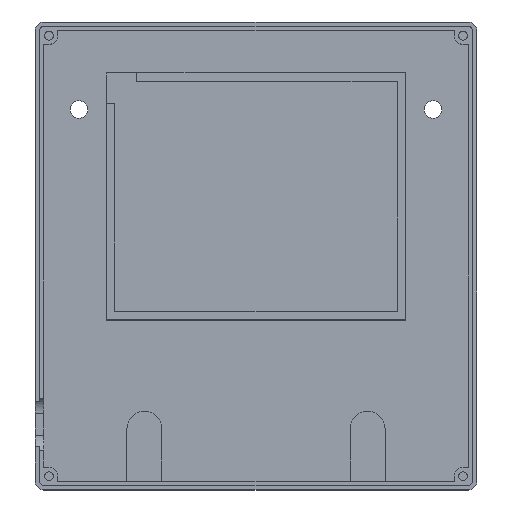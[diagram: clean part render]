
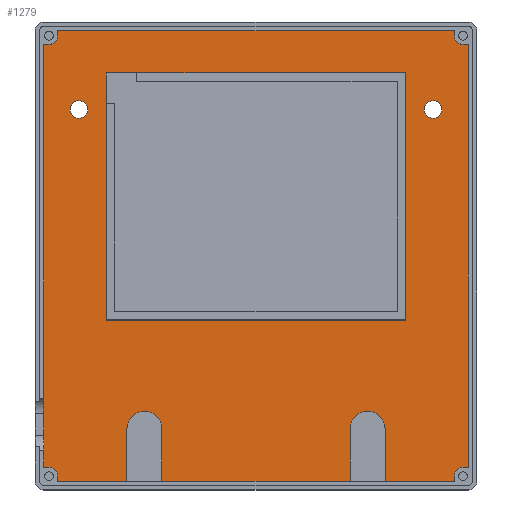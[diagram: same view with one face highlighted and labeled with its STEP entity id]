
A CAD part, top view. The second image highlights one B-rep face of the part: STEP entity #1279.
In plain terms, the highlighted planar face has unit normal (0, 0, 1).
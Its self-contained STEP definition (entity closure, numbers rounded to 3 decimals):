
#15=FACE_BOUND('',#154,.T.);
#16=FACE_BOUND('',#155,.T.);
#17=FACE_BOUND('',#156,.T.);
#32=PLANE('',#1379);
#83=FACE_OUTER_BOUND('',#153,.T.);
#153=EDGE_LOOP('',(#936,#937,#938,#939,#940,#941,#942,#943,#944,#945,#946,
#947,#948,#949,#950,#951,#952,#953,#954,#955,#956,#957,#958,#959));
#154=EDGE_LOOP('',(#960,#961,#962,#963));
#155=EDGE_LOOP('',(#964));
#156=EDGE_LOOP('',(#965));
#246=LINE('',#1927,#389);
#251=LINE('',#1941,#394);
#255=LINE('',#1949,#398);
#256=LINE('',#1951,#399);
#257=LINE('',#1955,#400);
#258=LINE('',#1957,#401);
#259=LINE('',#1959,#402);
#260=LINE('',#1963,#403);
#261=LINE('',#1965,#404);
#262=LINE('',#1967,#405);
#263=LINE('',#1971,#406);
#264=LINE('',#1973,#407);
#265=LINE('',#1975,#408);
#266=LINE('',#1979,#409);
#267=LINE('',#1981,#410);
#268=LINE('',#1983,#411);
#269=LINE('',#1987,#412);
#270=LINE('',#1988,#413);
#271=LINE('',#1991,#414);
#272=LINE('',#1993,#415);
#273=LINE('',#1995,#416);
#274=LINE('',#1996,#417);
#389=VECTOR('',#1539,10.);
#394=VECTOR('',#1552,10.);
#398=VECTOR('',#1560,10.);
#399=VECTOR('',#1561,10.);
#400=VECTOR('',#1564,10.);
#401=VECTOR('',#1565,10.);
#402=VECTOR('',#1566,10.);
#403=VECTOR('',#1569,10.);
#404=VECTOR('',#1570,10.);
#405=VECTOR('',#1571,10.);
#406=VECTOR('',#1574,10.);
#407=VECTOR('',#1575,10.);
#408=VECTOR('',#1576,10.);
#409=VECTOR('',#1579,10.);
#410=VECTOR('',#1580,10.);
#411=VECTOR('',#1581,10.);
#412=VECTOR('',#1584,10.);
#413=VECTOR('',#1585,10.);
#414=VECTOR('',#1586,10.);
#415=VECTOR('',#1587,10.);
#416=VECTOR('',#1588,10.);
#417=VECTOR('',#1589,10.);
#521=CIRCLE('',#1375,4.);
#523=CIRCLE('',#1380,2.);
#524=CIRCLE('',#1381,2.);
#525=CIRCLE('',#1382,2.);
#526=CIRCLE('',#1383,2.);
#527=CIRCLE('',#1384,4.);
#528=CIRCLE('',#1385,2.);
#529=CIRCLE('',#1386,2.);
#585=VERTEX_POINT('',#1925);
#586=VERTEX_POINT('',#1926);
#589=VERTEX_POINT('',#1934);
#591=VERTEX_POINT('',#1940);
#593=VERTEX_POINT('',#1948);
#594=VERTEX_POINT('',#1950);
#595=VERTEX_POINT('',#1952);
#596=VERTEX_POINT('',#1954);
#597=VERTEX_POINT('',#1956);
#598=VERTEX_POINT('',#1958);
#599=VERTEX_POINT('',#1960);
#600=VERTEX_POINT('',#1962);
#601=VERTEX_POINT('',#1964);
#602=VERTEX_POINT('',#1966);
#603=VERTEX_POINT('',#1968);
#604=VERTEX_POINT('',#1970);
#605=VERTEX_POINT('',#1972);
#606=VERTEX_POINT('',#1974);
#607=VERTEX_POINT('',#1976);
#608=VERTEX_POINT('',#1978);
#609=VERTEX_POINT('',#1980);
#610=VERTEX_POINT('',#1982);
#611=VERTEX_POINT('',#1984);
#612=VERTEX_POINT('',#1986);
#613=VERTEX_POINT('',#1989);
#614=VERTEX_POINT('',#1990);
#615=VERTEX_POINT('',#1992);
#616=VERTEX_POINT('',#1994);
#617=VERTEX_POINT('',#1997);
#618=VERTEX_POINT('',#1999);
#718=EDGE_CURVE('',#585,#586,#246,.T.);
#722=EDGE_CURVE('',#586,#589,#521,.T.);
#725=EDGE_CURVE('',#589,#591,#251,.T.);
#729=EDGE_CURVE('',#593,#591,#255,.T.);
#730=EDGE_CURVE('',#594,#593,#256,.T.);
#731=EDGE_CURVE('',#595,#594,#523,.T.);
#732=EDGE_CURVE('',#596,#595,#257,.T.);
#733=EDGE_CURVE('',#597,#596,#258,.T.);
#734=EDGE_CURVE('',#598,#597,#259,.T.);
#735=EDGE_CURVE('',#599,#598,#524,.T.);
#736=EDGE_CURVE('',#600,#599,#260,.T.);
#737=EDGE_CURVE('',#601,#600,#261,.T.);
#738=EDGE_CURVE('',#602,#601,#262,.T.);
#739=EDGE_CURVE('',#603,#602,#525,.T.);
#740=EDGE_CURVE('',#604,#603,#263,.T.);
#741=EDGE_CURVE('',#605,#604,#264,.T.);
#742=EDGE_CURVE('',#606,#605,#265,.T.);
#743=EDGE_CURVE('',#607,#606,#526,.T.);
#744=EDGE_CURVE('',#608,#607,#266,.T.);
#745=EDGE_CURVE('',#609,#608,#267,.T.);
#746=EDGE_CURVE('',#609,#610,#268,.T.);
#747=EDGE_CURVE('',#610,#611,#527,.T.);
#748=EDGE_CURVE('',#611,#612,#269,.T.);
#749=EDGE_CURVE('',#585,#612,#270,.T.);
#750=EDGE_CURVE('',#613,#614,#271,.T.);
#751=EDGE_CURVE('',#614,#615,#272,.T.);
#752=EDGE_CURVE('',#615,#616,#273,.T.);
#753=EDGE_CURVE('',#616,#613,#274,.T.);
#754=EDGE_CURVE('',#617,#617,#528,.T.);
#755=EDGE_CURVE('',#618,#618,#529,.T.);
#936=ORIENTED_EDGE('',*,*,#718,.T.);
#937=ORIENTED_EDGE('',*,*,#722,.T.);
#938=ORIENTED_EDGE('',*,*,#725,.T.);
#939=ORIENTED_EDGE('',*,*,#729,.F.);
#940=ORIENTED_EDGE('',*,*,#730,.F.);
#941=ORIENTED_EDGE('',*,*,#731,.F.);
#942=ORIENTED_EDGE('',*,*,#732,.F.);
#943=ORIENTED_EDGE('',*,*,#733,.F.);
#944=ORIENTED_EDGE('',*,*,#734,.F.);
#945=ORIENTED_EDGE('',*,*,#735,.F.);
#946=ORIENTED_EDGE('',*,*,#736,.F.);
#947=ORIENTED_EDGE('',*,*,#737,.F.);
#948=ORIENTED_EDGE('',*,*,#738,.F.);
#949=ORIENTED_EDGE('',*,*,#739,.F.);
#950=ORIENTED_EDGE('',*,*,#740,.F.);
#951=ORIENTED_EDGE('',*,*,#741,.F.);
#952=ORIENTED_EDGE('',*,*,#742,.F.);
#953=ORIENTED_EDGE('',*,*,#743,.F.);
#954=ORIENTED_EDGE('',*,*,#744,.F.);
#955=ORIENTED_EDGE('',*,*,#745,.F.);
#956=ORIENTED_EDGE('',*,*,#746,.T.);
#957=ORIENTED_EDGE('',*,*,#747,.T.);
#958=ORIENTED_EDGE('',*,*,#748,.T.);
#959=ORIENTED_EDGE('',*,*,#749,.F.);
#960=ORIENTED_EDGE('',*,*,#750,.T.);
#961=ORIENTED_EDGE('',*,*,#751,.T.);
#962=ORIENTED_EDGE('',*,*,#752,.T.);
#963=ORIENTED_EDGE('',*,*,#753,.T.);
#964=ORIENTED_EDGE('',*,*,#754,.T.);
#965=ORIENTED_EDGE('',*,*,#755,.T.);
#1279=ADVANCED_FACE('',(#83,#15,#16,#17),#32,.T.);
#1375=AXIS2_PLACEMENT_3D('',#1935,#1545,#1546);
#1379=AXIS2_PLACEMENT_3D('',#1947,#1558,#1559);
#1380=AXIS2_PLACEMENT_3D('',#1953,#1562,#1563);
#1381=AXIS2_PLACEMENT_3D('',#1961,#1567,#1568);
#1382=AXIS2_PLACEMENT_3D('',#1969,#1572,#1573);
#1383=AXIS2_PLACEMENT_3D('',#1977,#1577,#1578);
#1384=AXIS2_PLACEMENT_3D('',#1985,#1582,#1583);
#1385=AXIS2_PLACEMENT_3D('',#1998,#1590,#1591);
#1386=AXIS2_PLACEMENT_3D('',#2000,#1592,#1593);
#1539=DIRECTION('',(0.,1.,0.));
#1545=DIRECTION('center_axis',(0.,0.,-1.));
#1546=DIRECTION('ref_axis',(1.,0.,0.));
#1552=DIRECTION('',(0.,-1.,0.));
#1558=DIRECTION('center_axis',(0.,0.,1.));
#1559=DIRECTION('ref_axis',(1.,0.,0.));
#1560=DIRECTION('',(-1.,0.,0.));
#1561=DIRECTION('',(0.,-1.,0.));
#1562=DIRECTION('center_axis',(0.,0.,1.));
#1563=DIRECTION('ref_axis',(0.,1.,0.));
#1564=DIRECTION('',(-1.,0.,0.));
#1565=DIRECTION('',(0.,-1.,0.));
#1566=DIRECTION('',(1.,0.,0.));
#1567=DIRECTION('center_axis',(0.,0.,1.));
#1568=DIRECTION('ref_axis',(-1.,0.,0.));
#1569=DIRECTION('',(0.,-1.,0.));
#1570=DIRECTION('',(1.,0.,0.));
#1571=DIRECTION('',(0.,1.,0.));
#1572=DIRECTION('center_axis',(0.,0.,1.));
#1573=DIRECTION('ref_axis',(0.,-1.,0.));
#1574=DIRECTION('',(1.,0.,0.));
#1575=DIRECTION('',(0.,1.,0.));
#1576=DIRECTION('',(-1.,0.,0.));
#1577=DIRECTION('center_axis',(0.,0.,1.));
#1578=DIRECTION('ref_axis',(1.,0.,0.));
#1579=DIRECTION('',(0.,1.,0.));
#1580=DIRECTION('',(-1.,0.,0.));
#1581=DIRECTION('',(0.,1.,0.));
#1582=DIRECTION('center_axis',(0.,0.,-1.));
#1583=DIRECTION('ref_axis',(1.,0.,0.));
#1584=DIRECTION('',(0.,-1.,0.));
#1585=DIRECTION('',(-1.,0.,0.));
#1586=DIRECTION('',(0.,1.,0.));
#1587=DIRECTION('',(1.,0.,0.));
#1588=DIRECTION('',(0.,-1.,0.));
#1589=DIRECTION('',(-1.,0.,0.));
#1590=DIRECTION('center_axis',(0.,0.,-1.));
#1591=DIRECTION('ref_axis',(1.,0.,0.));
#1592=DIRECTION('center_axis',(0.,0.,-1.));
#1593=DIRECTION('ref_axis',(1.,0.,0.));
#1925=CARTESIAN_POINT('',(67.,-100.,0.));
#1926=CARTESIAN_POINT('',(67.,-88.,0.));
#1927=CARTESIAN_POINT('',(67.,-68.25,0.));
#1934=CARTESIAN_POINT('',(75.,-88.,0.));
#1935=CARTESIAN_POINT('Origin',(71.,-88.,0.));
#1940=CARTESIAN_POINT('',(75.,-100.,0.));
#1941=CARTESIAN_POINT('',(75.,-74.25,0.));
#1947=CARTESIAN_POINT('Origin',(45.5,-48.5,0.));
#1948=CARTESIAN_POINT('',(90.85,-100.,0.));
#1949=CARTESIAN_POINT('',(90.85,-100.,0.));
#1950=CARTESIAN_POINT('',(90.85,-98.85,0.));
#1951=CARTESIAN_POINT('',(90.85,-100.,0.));
#1952=CARTESIAN_POINT('',(92.85,-96.85,0.));
#1953=CARTESIAN_POINT('Origin',(92.85,-98.85,0.));
#1954=CARTESIAN_POINT('',(94.,-96.85,0.));
#1955=CARTESIAN_POINT('',(92.85,-96.85,0.));
#1956=CARTESIAN_POINT('',(94.,-0.15,0.));
#1957=CARTESIAN_POINT('',(94.,-0.15,0.));
#1958=CARTESIAN_POINT('',(92.85,-0.15,0.));
#1959=CARTESIAN_POINT('',(92.85,-0.15,0.));
#1960=CARTESIAN_POINT('',(90.85,1.85,0.));
#1961=CARTESIAN_POINT('Origin',(92.85,1.85,0.));
#1962=CARTESIAN_POINT('',(90.85,3.,0.));
#1963=CARTESIAN_POINT('',(90.85,3.,0.));
#1964=CARTESIAN_POINT('',(0.15,3.,0.));
#1965=CARTESIAN_POINT('',(0.15,3.,0.));
#1966=CARTESIAN_POINT('',(0.15,1.85,0.));
#1967=CARTESIAN_POINT('',(0.15,3.,0.));
#1968=CARTESIAN_POINT('',(-1.85,-0.15,0.));
#1969=CARTESIAN_POINT('Origin',(-1.85,1.85,0.));
#1970=CARTESIAN_POINT('',(-3.,-0.15,0.));
#1971=CARTESIAN_POINT('',(-1.85,-0.15,0.));
#1972=CARTESIAN_POINT('',(-3.,-96.85,0.));
#1973=CARTESIAN_POINT('',(-3.,-96.85,0.));
#1974=CARTESIAN_POINT('',(-1.85,-96.85,0.));
#1975=CARTESIAN_POINT('',(-1.85,-96.85,0.));
#1976=CARTESIAN_POINT('',(0.15,-98.85,0.));
#1977=CARTESIAN_POINT('Origin',(-1.85,-98.85,0.));
#1978=CARTESIAN_POINT('',(0.15,-100.,0.));
#1979=CARTESIAN_POINT('',(0.15,-98.85,0.));
#1980=CARTESIAN_POINT('',(16.,-100.,0.));
#1981=CARTESIAN_POINT('',(90.85,-100.,0.));
#1982=CARTESIAN_POINT('',(16.,-88.,0.));
#1983=CARTESIAN_POINT('',(16.,-68.25,0.));
#1984=CARTESIAN_POINT('',(24.,-88.,0.));
#1985=CARTESIAN_POINT('Origin',(20.,-88.,0.));
#1986=CARTESIAN_POINT('',(24.,-100.,0.));
#1987=CARTESIAN_POINT('',(24.,-74.25,0.));
#1988=CARTESIAN_POINT('',(90.85,-100.,0.));
#1989=CARTESIAN_POINT('',(11.25,-63.15,0.));
#1990=CARTESIAN_POINT('',(11.25,-6.65,0.));
#1991=CARTESIAN_POINT('',(11.25,-27.575,0.));
#1992=CARTESIAN_POINT('',(79.75,-6.65,0.));
#1993=CARTESIAN_POINT('',(62.625,-6.65,0.));
#1994=CARTESIAN_POINT('',(79.75,-63.15,0.));
#1995=CARTESIAN_POINT('',(79.75,-55.825,0.));
#1996=CARTESIAN_POINT('',(28.375,-63.15,0.));
#1997=CARTESIAN_POINT('',(3.,-15.,0.));
#1998=CARTESIAN_POINT('Origin',(5.,-15.,0.));
#1999=CARTESIAN_POINT('',(84.,-15.,0.));
#2000=CARTESIAN_POINT('Origin',(86.,-15.,0.));
